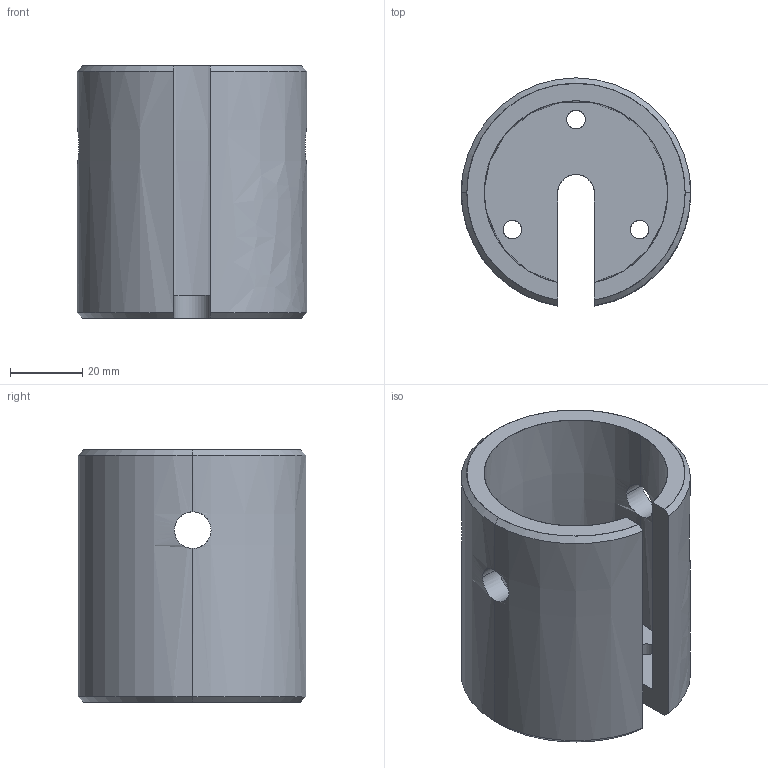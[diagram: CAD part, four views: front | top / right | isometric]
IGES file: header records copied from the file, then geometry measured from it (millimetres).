
Start section: SolidWorks IGES FILE using analytic representation for surfaces
Global section: file name: G:\Work In Progress\900252_ROV Marker Tool\900252-Release_Drawings\Plunger Bearing.IGS; native system: SolidWorks 2003 by SolidWorks Corporation; preprocessor: Version 5.3; author: mob; date: 030129.110430; units: inch
Bounding box: 63.5 x 63.09 x 69.85 mm (x, y, z)
Surface area: 29509.3 mm2 (no closed solid volume)
Topology: 0 solids, 0 shells, 34 faces, 874 edges, 874 vertices
Faces by surface type: revolution 29, bspline 5
